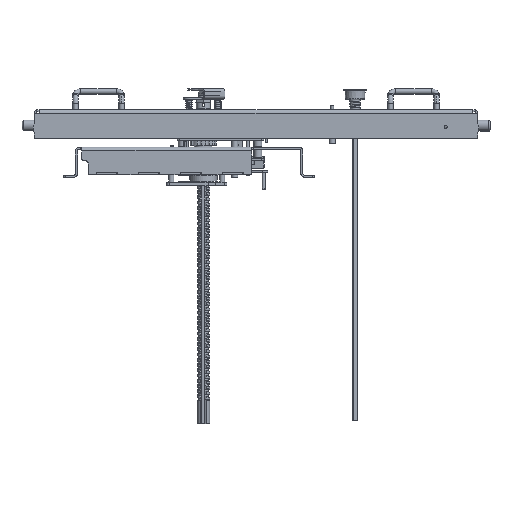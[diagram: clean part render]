
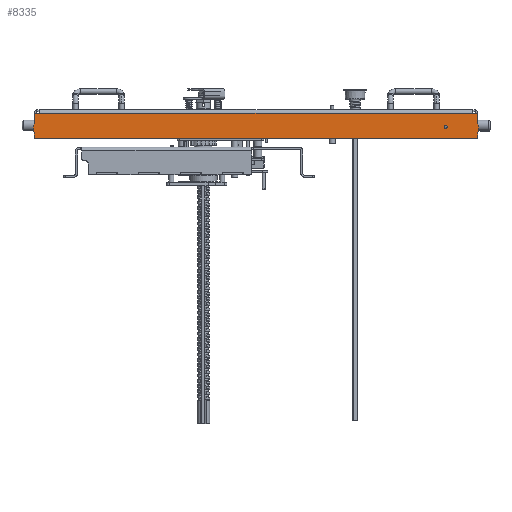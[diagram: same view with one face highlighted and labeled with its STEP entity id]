
A CAD part, front view. The second image highlights one B-rep face of the part: STEP entity #8335.
In plain terms, the highlighted planar face has unit normal (0, -1, 0) as drawn and (0, 1, 0) by its records, which use the part's own axes.
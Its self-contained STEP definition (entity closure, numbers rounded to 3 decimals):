
#8335=ADVANCED_FACE('',(#30421,#30423),#30425,.F.);
#30421=FACE_BOUND('',#30422,.T.);
#30422=EDGE_LOOP('',(#53828,#53829,#53830,#53831,#53832,#53833,#53834,#53835,#53836,
#53837));
#30423=FACE_BOUND('',#30424,.T.);
#30424=EDGE_LOOP('',(#53838));
#30425=PLANE('',#30426);
#30426=AXIS2_PLACEMENT_3D('',#30427,#30428,#30429);
#30427=CARTESIAN_POINT('',(-476.928,-23.073,7.));
#30428=DIRECTION('',(0.,-1.,0.));
#30429=DIRECTION('',(1.,0.,0.));
#53828=ORIENTED_EDGE('',*,*,#66260,.F.);
#53829=ORIENTED_EDGE('',*,*,#66261,.F.);
#53830=ORIENTED_EDGE('',*,*,#66262,.F.);
#53831=ORIENTED_EDGE('',*,*,#66263,.F.);
#53832=ORIENTED_EDGE('',*,*,#66264,.F.);
#53833=ORIENTED_EDGE('',*,*,#66265,.F.);
#53834=ORIENTED_EDGE('',*,*,#66266,.F.);
#53835=ORIENTED_EDGE('',*,*,#66267,.F.);
#53836=ORIENTED_EDGE('',*,*,#66268,.F.);
#53837=ORIENTED_EDGE('',*,*,#66236,.T.);
#53838=ORIENTED_EDGE('',*,*,#66126,.F.);
#66126=EDGE_CURVE('',#73808,#73808,#73809,.T.);
#66236=EDGE_CURVE('',#73989,#73986,#73990,.T.);
#66260=EDGE_CURVE('',#74028,#73986,#74029,.T.);
#66261=EDGE_CURVE('',#74030,#74028,#74031,.T.);
#66262=EDGE_CURVE('',#74032,#74030,#74033,.T.);
#66263=EDGE_CURVE('',#74034,#74032,#74035,.T.);
#66264=EDGE_CURVE('',#74036,#74034,#74037,.T.);
#66265=EDGE_CURVE('',#74038,#74036,#74039,.T.);
#66266=EDGE_CURVE('',#74040,#74038,#74041,.T.);
#66267=EDGE_CURVE('',#74042,#74040,#74043,.T.);
#66268=EDGE_CURVE('',#73989,#74042,#74044,.T.);
#73808=VERTEX_POINT('',#91135);
#73809=CIRCLE('',#91136,3.1);
#73986=VERTEX_POINT('',#91551);
#73989=VERTEX_POINT('',#91559);
#73990=LINE('',#91560,#91561);
#74028=VERTEX_POINT('',#91651);
#74029=LINE('',#91652,#91653);
#74030=VERTEX_POINT('',#91655);
#74031=LINE('',#91656,#91657);
#74032=VERTEX_POINT('',#91659);
#74033=CIRCLE('',#91660,19.);
#74034=VERTEX_POINT('',#91664);
#74035=LINE('',#91665,#91666);
#74036=VERTEX_POINT('',#91668);
#74037=LINE('',#91669,#91670);
#74038=VERTEX_POINT('',#91672);
#74039=LINE('',#91673,#91674);
#74040=VERTEX_POINT('',#91676);
#74041=CIRCLE('',#91677,19.);
#74042=VERTEX_POINT('',#91681);
#74043=LINE('',#91682,#91683);
#74044=LINE('',#91685,#91686);
#91135=CARTESIAN_POINT('',(315.172,-23.073,36.1));
#91136=AXIS2_PLACEMENT_3D('',#91137,#91138,#91139);
#91137=CARTESIAN_POINT('',(315.172,-23.073,33.));
#91138=DIRECTION('',(0.,1.,0.));
#91139=DIRECTION('',(0.,0.,1.));
#91551=CARTESIAN_POINT('',(-459.828,-23.073,7.));
#91559=CARTESIAN_POINT('',(366.172,-23.073,7.));
#91560=CARTESIAN_POINT('',(366.172,-23.073,7.));
#91561=VECTOR('',#91562,1.);
#91562=DIRECTION('',(-1.,0.,0.));
#91651=CARTESIAN_POINT('',(-469.828,-23.073,7.));
#91652=CARTESIAN_POINT('',(-469.828,-23.073,7.));
#91653=VECTOR('',#91654,1.);
#91654=DIRECTION('',(1.,0.,0.));
#91655=CARTESIAN_POINT('',(-469.828,-23.073,27.515));
#91656=CARTESIAN_POINT('',(-469.828,-23.073,27.515));
#91657=VECTOR('',#91658,1.);
#91658=DIRECTION('',(0.,0.,-1.));
#91659=CARTESIAN_POINT('',(-469.828,-23.073,44.485));
#91660=AXIS2_PLACEMENT_3D('',#91661,#91662,#91663);
#91661=CARTESIAN_POINT('',(-452.828,-23.073,36.));
#91662=DIRECTION('',(0.,-1.,0.));
#91663=DIRECTION('',(-0.895,0.,0.447));
#91664=CARTESIAN_POINT('',(-469.828,-23.073,55.));
#91665=CARTESIAN_POINT('',(-469.828,-23.073,55.));
#91666=VECTOR('',#91667,1.);
#91667=DIRECTION('',(0.,0.,-1.));
#91668=CARTESIAN_POINT('',(376.172,-23.073,55.));
#91669=CARTESIAN_POINT('',(376.172,-23.073,55.));
#91670=VECTOR('',#91671,1.);
#91671=DIRECTION('',(-1.,0.,0.));
#91672=CARTESIAN_POINT('',(376.172,-23.073,44.485));
#91673=CARTESIAN_POINT('',(376.172,-23.073,44.485));
#91674=VECTOR('',#91675,1.);
#91675=DIRECTION('',(0.,0.,1.));
#91676=CARTESIAN_POINT('',(376.172,-23.073,27.515));
#91677=AXIS2_PLACEMENT_3D('',#91678,#91679,#91680);
#91678=CARTESIAN_POINT('',(359.172,-23.073,36.));
#91679=DIRECTION('',(0.,-1.,0.));
#91680=DIRECTION('',(0.895,0.,-0.447));
#91681=CARTESIAN_POINT('',(376.172,-23.073,7.));
#91682=CARTESIAN_POINT('',(376.172,-23.073,7.));
#91683=VECTOR('',#91684,1.);
#91684=DIRECTION('',(0.,0.,1.));
#91685=CARTESIAN_POINT('',(366.172,-23.073,7.));
#91686=VECTOR('',#91687,1.);
#91687=DIRECTION('',(1.,0.,0.));
